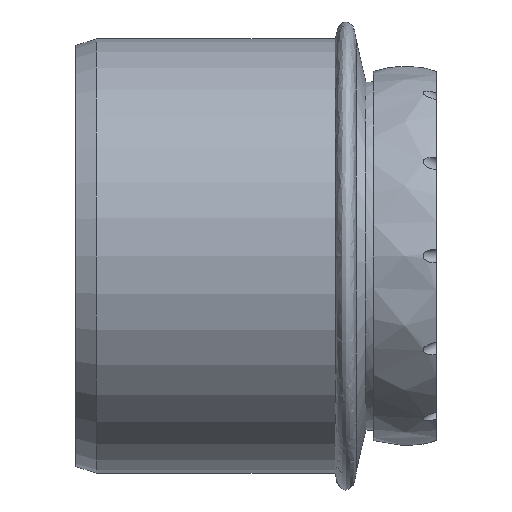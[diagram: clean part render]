
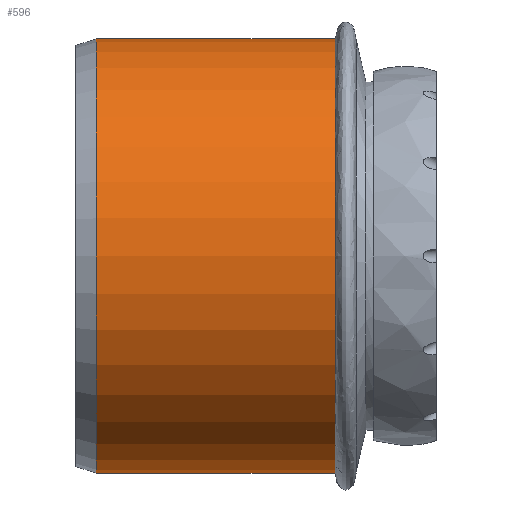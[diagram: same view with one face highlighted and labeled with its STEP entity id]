
A CAD part, front view. The second image highlights one B-rep face of the part: STEP entity #596.
In plain terms, the highlighted cylindrical face has radius 62.6 mm (diameter 125.2 mm), a full revolution.
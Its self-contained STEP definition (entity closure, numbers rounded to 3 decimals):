
#17=FACE_BOUND('',#145,.T.);
#75=CYLINDRICAL_SURFACE('',#677,62.6);
#107=FACE_OUTER_BOUND('',#144,.T.);
#144=EDGE_LOOP('',(#501));
#145=EDGE_LOOP('',(#502));
#189=CIRCLE('',#670,62.6);
#192=CIRCLE('',#676,62.6);
#274=VERTEX_POINT('',#1489);
#277=VERTEX_POINT('',#1499);
#354=EDGE_CURVE('',#274,#274,#189,.T.);
#357=EDGE_CURVE('',#277,#277,#192,.T.);
#501=ORIENTED_EDGE('',*,*,#354,.F.);
#502=ORIENTED_EDGE('',*,*,#357,.T.);
#596=ADVANCED_FACE('',(#107,#17),#75,.T.);
#670=AXIS2_PLACEMENT_3D('',#1491,#832,#833);
#676=AXIS2_PLACEMENT_3D('',#1500,#844,#845);
#677=AXIS2_PLACEMENT_3D('',#1501,#846,#847);
#832=DIRECTION('center_axis',(1.,0.,0.));
#833=DIRECTION('ref_axis',(0.,0.,-1.));
#844=DIRECTION('center_axis',(1.,0.,0.));
#845=DIRECTION('ref_axis',(0.,0.,-1.));
#846=DIRECTION('center_axis',(1.,0.,0.));
#847=DIRECTION('ref_axis',(0.,1.,0.));
#1489=CARTESIAN_POINT('',(74.9,74.75,0.));
#1491=CARTESIAN_POINT('Origin',(74.9,12.15,0.));
#1499=CARTESIAN_POINT('',(6.,74.75,0.));
#1500=CARTESIAN_POINT('Origin',(6.,12.15,0.));
#1501=CARTESIAN_POINT('Origin',(40.45,12.15,0.));
